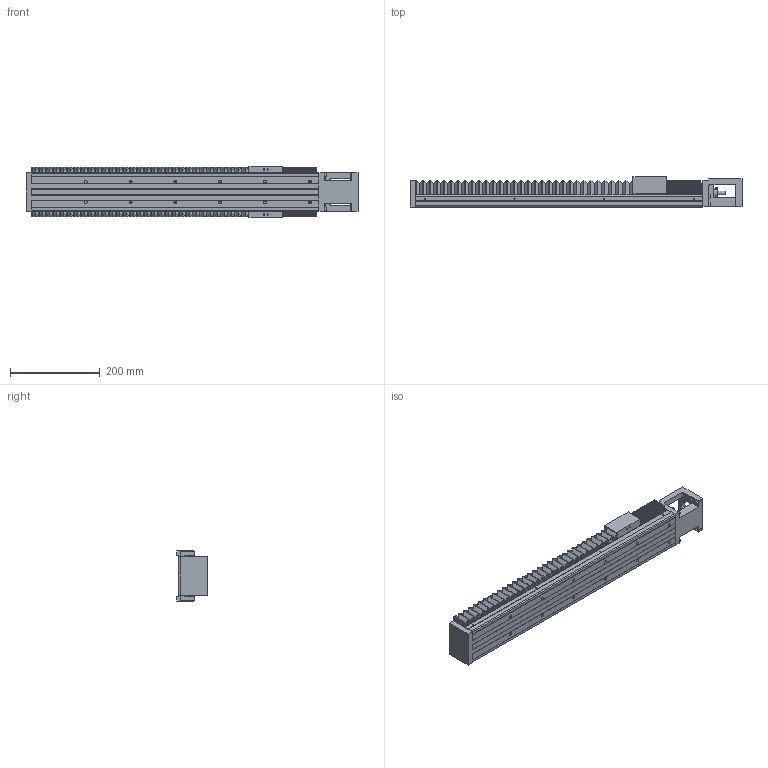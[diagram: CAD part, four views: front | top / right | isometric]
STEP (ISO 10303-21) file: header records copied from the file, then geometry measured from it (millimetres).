
FILE_DESCRIPTION( ( '' ), '1' );
FILE_NAME( '//partserver001.servicenet/client_exchange/iodir/jobs/output/wkb20112378_no3/STEP/kk8610p_640a1_f0b_2_03.stp', '2009-11-12T12:11:58', ( '' ), ( '' ), ' ', ' ', ' ' );
FILE_SCHEMA( ( 'CONFIG_CONTROL_DESIGN' ) );
Length unit declared in the file: millimetre
Products named in the file (6): 1; 2; 3; 4; 5; 6
Bounding box: 740 x 68 x 112 mm (x, y, z)
Volume: 1656013.2 mm3; surface area: 895218.1 mm2
Topology: 6 solids, 6 shells, 2154 faces, 5943 edges, 3798 vertices
Faces by surface type: plane 1798, cylinder 208, cone 140, torus 8
Entity records: 67181 total; most frequent: CARTESIAN_POINT 12023, ORIENTED_EDGE 11750, DIRECTION 10725, EDGE_CURVE 5875, LINE 5317, VECTOR 5317, VERTEX_POINT 3798, AXIS2_PLACEMENT_3D 2704
